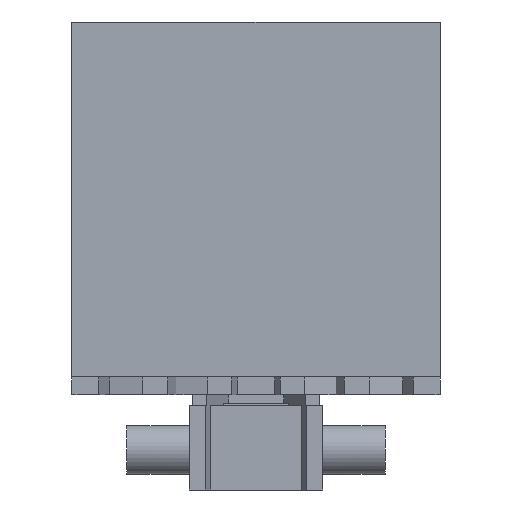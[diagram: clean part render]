
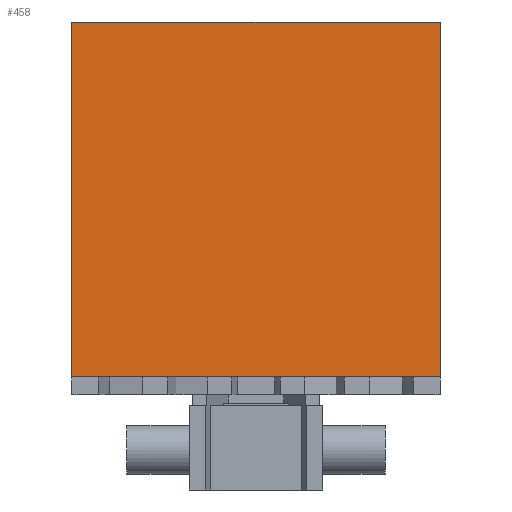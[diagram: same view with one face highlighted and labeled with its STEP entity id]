
A CAD part, left-side view. The second image highlights one B-rep face of the part: STEP entity #458.
In plain terms, the highlighted planar face has unit normal (-1, 0, 0).
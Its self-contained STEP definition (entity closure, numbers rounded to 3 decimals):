
#112 = EDGE_CURVE ( 'NONE', #426, #1489, #646, .T. ) ;
#246 = EDGE_CURVE ( 'NONE', #247, #1456, #1006, .T. ) ;
#247 = VERTEX_POINT ( 'NONE', #1050 ) ;
#337 = ORIENTED_EDGE ( 'NONE', *, *, #1504, .T. ) ;
#338 = ORIENTED_EDGE ( 'NONE', *, *, #365, .T. ) ;
#340 = EDGE_CURVE ( 'NONE', #1895, #1481, #1968, .T. ) ;
#341 = EDGE_LOOP ( 'NONE', ( #337, #338, #366, #437, #368, #696, #675, #676 ) ) ;
#365 = EDGE_CURVE ( 'NONE', #1521, #1527, #1996, .T. ) ;
#366 = ORIENTED_EDGE ( 'NONE', *, *, #1595, .T. ) ;
#368 = ORIENTED_EDGE ( 'NONE', *, *, #369, .F. ) ;
#369 = EDGE_CURVE ( 'NONE', #247, #426, #1951, .T. ) ;
#426 = VERTEX_POINT ( 'NONE', #2139 ) ;
#437 = ORIENTED_EDGE ( 'NONE', *, *, #112, .F. ) ;
#458 = ADVANCED_FACE ( 'NONE', ( #2166 ), #2171, .F. ) ;
#643 = DIRECTION ( 'NONE',  ( 0., 0., -1. ) ) ;
#644 = VECTOR ( 'NONE', #643, 1000. ) ;
#645 = CARTESIAN_POINT ( 'NONE',  ( -9.252, -41.5, 122.5 ) ) ;
#646 = LINE ( 'NONE', #645, #644 ) ;
#675 = ORIENTED_EDGE ( 'NONE', *, *, #1457, .T. ) ;
#676 = ORIENTED_EDGE ( 'NONE', *, *, #340, .T. ) ;
#696 = ORIENTED_EDGE ( 'NONE', *, *, #246, .T. ) ;
#968 = CARTESIAN_POINT ( 'NONE',  ( -9.252, 41.5, 122.5 ) ) ;
#1004 = DIRECTION ( 'NONE',  ( 0., 0., -1. ) ) ;
#1006 = LINE ( 'NONE', #968, #1007 ) ;
#1007 = VECTOR ( 'NONE', #1004, 1000. ) ;
#1050 = CARTESIAN_POINT ( 'NONE',  ( -9.252, 41.5, 122.5 ) ) ;
#1456 = VERTEX_POINT ( 'NONE', #2914 ) ;
#1457 = EDGE_CURVE ( 'NONE', #1456, #1895, #2633, .T. ) ;
#1481 = VERTEX_POINT ( 'NONE', #2962 ) ;
#1489 = VERTEX_POINT ( 'NONE', #2947 ) ;
#1504 = EDGE_CURVE ( 'NONE', #1481, #1521, #3132, .T. ) ;
#1521 = VERTEX_POINT ( 'NONE', #3152 ) ;
#1527 = VERTEX_POINT ( 'NONE', #3008 ) ;
#1595 = EDGE_CURVE ( 'NONE', #1527, #1489, #3249, .T. ) ;
#1895 = VERTEX_POINT ( 'NONE', #3817 ) ;
#1942 = DIRECTION ( 'NONE',  ( 0., -1., 0. ) ) ;
#1943 = VECTOR ( 'NONE', #1942, 1000. ) ;
#1951 = LINE ( 'NONE', #1954, #1953 ) ;
#1952 = DIRECTION ( 'NONE',  ( 0., -1., 0. ) ) ;
#1953 = VECTOR ( 'NONE', #1952, 1000. ) ;
#1954 = CARTESIAN_POINT ( 'NONE',  ( -9.252, -41.5, 122.5 ) ) ;
#1964 = VECTOR ( 'NONE', #1976, 1000. ) ;
#1968 = LINE ( 'NONE', #1973, #1964 ) ;
#1973 = CARTESIAN_POINT ( 'NONE',  ( -9.252, -41.5, 42.5 ) ) ;
#1976 = DIRECTION ( 'NONE',  ( 0., -1., 0. ) ) ;
#1995 = CARTESIAN_POINT ( 'NONE',  ( -9.252, -41.5, 42.5 ) ) ;
#1996 = LINE ( 'NONE', #1995, #1943 ) ;
#2139 = CARTESIAN_POINT ( 'NONE',  ( -9.252, -41.5, 122.5 ) ) ;
#2153 = DIRECTION ( 'NONE',  ( 1., 0., 0. ) ) ;
#2154 = CARTESIAN_POINT ( 'NONE',  ( -9.252, -41.5, 122.5 ) ) ;
#2158 = AXIS2_PLACEMENT_3D ( 'NONE', #2154, #2153, #2168 ) ;
#2166 = FACE_OUTER_BOUND ( 'NONE', #341, .T. ) ;
#2168 = DIRECTION ( 'NONE',  ( 0., 1., 0. ) ) ;
#2171 = PLANE ( 'NONE',  #2158 ) ;
#2633 = LINE ( 'NONE', #2728, #2746 ) ;
#2728 = CARTESIAN_POINT ( 'NONE',  ( -9.252, -41.5, 42.5 ) ) ;
#2746 = VECTOR ( 'NONE', #2779, 1000. ) ;
#2779 = DIRECTION ( 'NONE',  ( 0., -1., 0. ) ) ;
#2914 = CARTESIAN_POINT ( 'NONE',  ( -9.252, 41.5, 42.5 ) ) ;
#2947 = CARTESIAN_POINT ( 'NONE',  ( -9.252, -41.5, 42.5 ) ) ;
#2962 = CARTESIAN_POINT ( 'NONE',  ( -9.252, 33.013, 42.5 ) ) ;
#3008 = CARTESIAN_POINT ( 'NONE',  ( -9.252, -33.052, 42.5 ) ) ;
#3127 = DIRECTION ( 'NONE',  ( 0., -1., 0. ) ) ;
#3128 = VECTOR ( 'NONE', #3127, 1000. ) ;
#3131 = CARTESIAN_POINT ( 'NONE',  ( -9.252, -41.5, 42.5 ) ) ;
#3132 = LINE ( 'NONE', #3131, #3128 ) ;
#3152 = CARTESIAN_POINT ( 'NONE',  ( -9.252, -33.013, 42.5 ) ) ;
#3241 = DIRECTION ( 'NONE',  ( 0., -1., 0. ) ) ;
#3242 = VECTOR ( 'NONE', #3241, 1000. ) ;
#3248 = CARTESIAN_POINT ( 'NONE',  ( -9.252, -41.5, 42.5 ) ) ;
#3249 = LINE ( 'NONE', #3248, #3242 ) ;
#3817 = CARTESIAN_POINT ( 'NONE',  ( -9.252, 33.052, 42.5 ) ) ;
